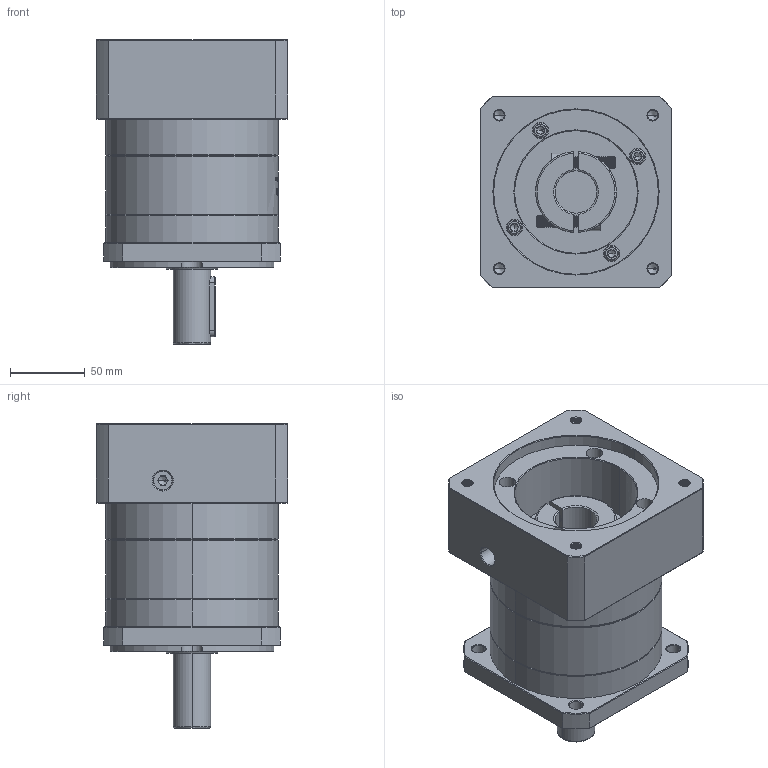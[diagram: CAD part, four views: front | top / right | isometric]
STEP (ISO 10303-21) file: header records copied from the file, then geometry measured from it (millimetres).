
FILE_DESCRIPTION (( 'STEP AP214' ), '1' );
FILE_NAME ('ZF120A-D25-L1-28-110-145-M8.step', '2023-03-07T09:29:00', ( '' ), ( '' ), 'SwSTEP 2.0', 'SolidWorks 2016', '' );
FILE_SCHEMA (( 'AUTOMOTIVE_DESIGN' ));
Length unit declared in the file: millimetre
Products named in the file (1): ZF120A-D25-L1-28-110-145-M8
Bounding box: 128 x 128 x 203.5 mm (x, y, z)
Volume: 1656496.3 mm3; surface area: 179863.6 mm2
Topology: 6 solids, 6 shells, 1939 faces, 5063 edges, 3221 vertices
Faces by surface type: plane 856, cylinder 420, cone 322, bspline 321, torus 20
Entity records: 106244 total; most frequent: CARTESIAN_POINT 41087, ORIENTED_EDGE 10066, DIRECTION 7797, EDGE_CURVE 5033, VERTEX_POINT 3221, VECTOR 2739, LINE 2739, AXIS2_PLACEMENT_3D 2529
